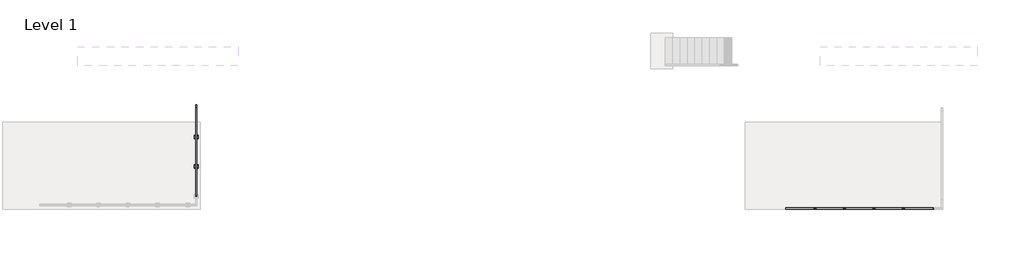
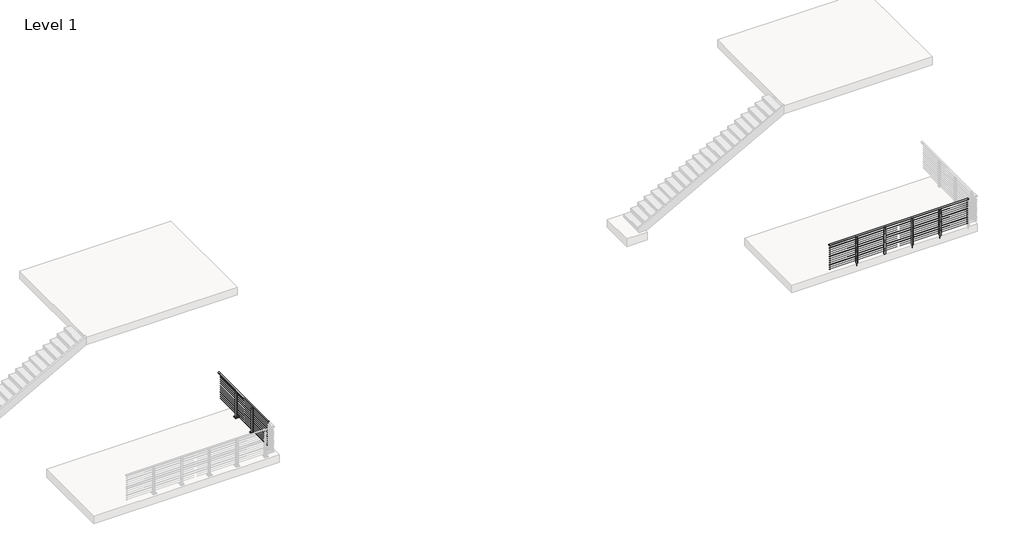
# One storey, part 11 of 26: 2 railings.
"""IFC4 building model written with IfcOpenShell, lengths in millimetres."""

from ifc_helpers import new_model, si_unit, point, frame, frame_2d, origin, origin_with_axes, place, context, project, spatial, polyline, circle_curve, trimmed, segment, composite_curve, outline, extrude, faceted_brep, element, save
from ifc_brep_helpers import plane_surface, cylinder_surface, advanced_brep

model = new_model("IFC4")

# Units and contexts
model_context = context("Model", 3, world=origin())
ifc_project = project(units=[si_unit("LENGTHUNIT", "METRE", prefix="MILLI")], contexts=[model_context])

# Site, building, storey
site = spatial("IfcSite", under=ifc_project)
building = spatial("IfcBuilding", under=site)
storey = spatial("IfcBuildingStorey", under=building, Name="Level 1", Elevation=0.0)

# Railings
placement = place(None, origin())
element("IfcRailing", 1, ObjectType="VIVA-CUBE-Cable-Floor Mount-Straight", at=placement, inside=storey, context=model_context, shape_type="SolidModel", body=[
    advanced_brep(
    [(19578.4855247, -56726.8365969, 1054.1), (19629.2855247, -56726.8365969, 1054.1), (19629.2855247, -53678.8365969, 1054.1), (19578.4855247, -53678.8365969, 1054.1), (19629.2855247, -56752.6334719, 1054.1), (19578.4855247, -56752.6334719, 1054.1), (19629.2855247, -53577.2365969, 1054.1), (19578.4855247, -53577.2365969, 1054.1)],
    [
        (0, 1, circle_curve(frame((19603.8855247, -56726.8365969, 1054.1), z_axis=(0.0, 1.0, 0.0), x_axis=(-1.0, 0.0, 0.0)), 25.4)),
        (1, 2),
        (2, 3, circle_curve(frame((19603.8855247, -53678.8365969, 1054.1), z_axis=(0.0, -1.0, 0.0), x_axis=(-1.0, 0.0, 0.0)), 25.4)),
        (3, 0),
        (1, 0, circle_curve(frame((19603.8855247, -56726.8365969, 1054.1), z_axis=(0.0, 1.0, 0.0), x_axis=(-1.0, 0.0, 0.0)), 25.4)),
        (3, 2, circle_curve(frame((19603.8855247, -53678.8365969, 1054.1), z_axis=(0.0, -1.0, 0.0), x_axis=(-1.0, 0.0, 0.0)), 25.4)),
        (4, 5, circle_curve(frame((19603.8855247, -56752.6334719, 1054.1), z_axis=(0.0, -1.0, 0.0), x_axis=(-1.0, 0.0, 0.0)), 25.4)),
        (5, 4, circle_curve(frame((19603.8855247, -56752.6334719, 1054.1), z_axis=(0.0, -1.0, 0.0), x_axis=(-1.0, 0.0, 0.0)), 25.4)),
        (4, 1),
        (0, 5),
        (6, 7, circle_curve(frame((19603.8855247, -53577.2365969, 1054.1), z_axis=(0.0, 1.0, 0.0), x_axis=(-1.0, 0.0, 0.0)), 25.4)),
        (7, 6, circle_curve(frame((19603.8855247, -53577.2365969, 1054.1), z_axis=(0.0, 1.0, 0.0), x_axis=(-1.0, 0.0, 0.0)), 25.4)),
        (2, 6),
        (7, 3),
    ],
    [
        cylinder_surface(frame((19603.8855247, -56726.8365969, 1054.1), z_axis=(0.0, -1.0, 0.0), x_axis=(-1.0, 0.0, 0.0)), 25.4),
        plane_surface(frame((19603.8855247, -56752.6334719, 1079.5), z_axis=(0.0, -1.0, 0.0), x_axis=(0.0, 0.0, 1.0))),
        cylinder_surface(frame((19603.8855247, -56752.6334719, 1054.1), z_axis=(0.0, -1.0, 0.0), x_axis=(-1.0, 0.0, 0.0)), 25.4),
        plane_surface(frame((19603.8855247, -53577.2365969, 1079.5), z_axis=(0.0, 1.0, 0.0), x_axis=(0.0, 0.0, 1.0))),
        cylinder_surface(frame((19603.8855247, -53678.8365969, 1054.1), z_axis=(0.0, -1.0, 0.0), x_axis=(-1.0, 0.0, 0.0)), 25.4),
    ],
    [
        (0, [[1, 2, 3, 4]]),
        (0, [[5, -4, 6, -2]]),
        (1, [[7, 8]]),
        (2, [[-7, 9, -1, 10]]),
        (2, [[-8, -10, -5, -9]]),
        (3, [[11, 12]]),
        (4, [[-3, 13, -12, 14]]),
        (4, [[-6, -14, -11, -13]]),
    ],
),
    extrude(outline(composite_curve([segment(trimmed(circle_curve(frame_2d((937.4124, 19603.8855247)), 2.3876), [point((937.4124, 19601.4979247))], [point((937.4124, 19606.2731247))], False, "CARTESIAN"), True, "CONTINUOUS"), segment(trimmed(circle_curve(frame_2d((937.4124, 19603.8855247)), 2.3876), [point((937.4124, 19606.2731247))], [point((937.4124, 19601.4979247))], False, "CARTESIAN"), True, "CONTINUOUS")], self_intersect=False)), frame((0.0, -56726.8365969, 0.0), z_axis=(0.0, 1.0, 0.0), x_axis=(0.0, 0.0, 1.0)), (0.0, 0.0, 1.0), 3048.0),
    extrude(outline(composite_curve([segment(trimmed(circle_curve(frame_2d((854.8624, 19603.8855247)), 2.3876), [point((854.8624, 19601.4979247))], [point((854.8624, 19606.2731247))], False, "CARTESIAN"), True, "CONTINUOUS"), segment(trimmed(circle_curve(frame_2d((854.8624, 19603.8855247)), 2.3876), [point((854.8624, 19606.2731247))], [point((854.8624, 19601.4979247))], False, "CARTESIAN"), True, "CONTINUOUS")], self_intersect=False)), frame((0.0, -56726.8365969, 0.0), z_axis=(0.0, 1.0, 0.0), x_axis=(0.0, 0.0, 1.0)), (0.0, 0.0, 1.0), 3048.0),
    extrude(outline(composite_curve([segment(trimmed(circle_curve(frame_2d((772.3124, 19603.8855247)), 2.3876), [point((772.3124, 19601.4979247))], [point((772.3124, 19606.2731247))], False, "CARTESIAN"), True, "CONTINUOUS"), segment(trimmed(circle_curve(frame_2d((772.3124, 19603.8855247)), 2.3876), [point((772.3124, 19606.2731247))], [point((772.3124, 19601.4979247))], False, "CARTESIAN"), True, "CONTINUOUS")], self_intersect=False)), frame((0.0, -56726.8365969, 0.0), z_axis=(0.0, 1.0, 0.0), x_axis=(0.0, 0.0, 1.0)), (0.0, 0.0, 1.0), 3048.0),
    extrude(outline(composite_curve([segment(trimmed(circle_curve(frame_2d((689.7624, 19603.8855247)), 2.3876), [point((689.7624, 19601.4979247))], [point((689.7624, 19606.2731247))], False, "CARTESIAN"), True, "CONTINUOUS"), segment(trimmed(circle_curve(frame_2d((689.7624, 19603.8855247)), 2.3876), [point((689.7624, 19606.2731247))], [point((689.7624, 19601.4979247))], False, "CARTESIAN"), True, "CONTINUOUS")], self_intersect=False)), frame((0.0, -56726.8365969, 0.0), z_axis=(0.0, 1.0, 0.0), x_axis=(0.0, 0.0, 1.0)), (0.0, 0.0, 1.0), 3048.0),
    extrude(outline(composite_curve([segment(trimmed(circle_curve(frame_2d((607.2124, 19603.8855247)), 2.3876), [point((607.2124, 19601.4979247))], [point((607.2124, 19606.2731247))], False, "CARTESIAN"), True, "CONTINUOUS"), segment(trimmed(circle_curve(frame_2d((607.2124, 19603.8855247)), 2.3876), [point((607.2124, 19606.2731247))], [point((607.2124, 19601.4979247))], False, "CARTESIAN"), True, "CONTINUOUS")], self_intersect=False)), frame((0.0, -56726.8365969, 0.0), z_axis=(0.0, 1.0, 0.0), x_axis=(0.0, 0.0, 1.0)), (0.0, 0.0, 1.0), 3048.0),
    extrude(outline(composite_curve([segment(trimmed(circle_curve(frame_2d((524.6624, 19603.8855247)), 2.3876), [point((524.6624, 19601.4979247))], [point((524.6624, 19606.2731247))], False, "CARTESIAN"), True, "CONTINUOUS"), segment(trimmed(circle_curve(frame_2d((524.6624, 19603.8855247)), 2.3876), [point((524.6624, 19606.2731247))], [point((524.6624, 19601.4979247))], False, "CARTESIAN"), True, "CONTINUOUS")], self_intersect=False)), frame((0.0, -56726.8365969, 0.0), z_axis=(0.0, 1.0, 0.0), x_axis=(0.0, 0.0, 1.0)), (0.0, 0.0, 1.0), 3048.0),
    extrude(outline(composite_curve([segment(trimmed(circle_curve(frame_2d((442.1124, 19603.8855247)), 2.3876), [point((442.1124, 19601.4979247))], [point((442.1124, 19606.2731247))], False, "CARTESIAN"), True, "CONTINUOUS"), segment(trimmed(circle_curve(frame_2d((442.1124, 19603.8855247)), 2.3876), [point((442.1124, 19606.2731247))], [point((442.1124, 19601.4979247))], False, "CARTESIAN"), True, "CONTINUOUS")], self_intersect=False)), frame((0.0, -56726.8365969, 0.0), z_axis=(0.0, 1.0, 0.0), x_axis=(0.0, 0.0, 1.0)), (0.0, 0.0, 1.0), 3048.0),
    extrude(outline(composite_curve([segment(trimmed(circle_curve(frame_2d((359.5624, 19603.8855247)), 2.3876), [point((359.5624, 19601.4979247))], [point((359.5624, 19606.2731247))], False, "CARTESIAN"), True, "CONTINUOUS"), segment(trimmed(circle_curve(frame_2d((359.5624, 19603.8855247)), 2.3876), [point((359.5624, 19606.2731247))], [point((359.5624, 19601.4979247))], False, "CARTESIAN"), True, "CONTINUOUS")], self_intersect=False)), frame((0.0, -56726.8365969, 0.0), z_axis=(0.0, 1.0, 0.0), x_axis=(0.0, 0.0, 1.0)), (0.0, 0.0, 1.0), 3048.0),
    extrude(outline(composite_curve([segment(trimmed(circle_curve(frame_2d((277.0124, 19603.8855247)), 2.3876), [point((277.0124, 19601.4979247))], [point((277.0124, 19606.2731247))], False, "CARTESIAN"), True, "CONTINUOUS"), segment(trimmed(circle_curve(frame_2d((277.0124, 19603.8855247)), 2.3876), [point((277.0124, 19606.2731247))], [point((277.0124, 19601.4979247))], False, "CARTESIAN"), True, "CONTINUOUS")], self_intersect=False)), frame((0.0, -56726.8365969, 0.0), z_axis=(0.0, 1.0, 0.0), x_axis=(0.0, 0.0, 1.0)), (0.0, 0.0, 1.0), 3048.0),
    extrude(outline(composite_curve([segment(trimmed(circle_curve(frame_2d((194.4624, 19603.8855247)), 2.3876), [point((194.4624, 19601.4979247))], [point((194.4624, 19606.2731247))], False, "CARTESIAN"), True, "CONTINUOUS"), segment(trimmed(circle_curve(frame_2d((194.4624, 19603.8855247)), 2.3876), [point((194.4624, 19606.2731247))], [point((194.4624, 19601.4979247))], False, "CARTESIAN"), True, "CONTINUOUS")], self_intersect=False)), frame((0.0, -56726.8365969, 0.0), z_axis=(0.0, 1.0, 0.0), x_axis=(0.0, 0.0, 1.0)), (0.0, 0.0, 1.0), 3048.0),
    extrude(outline(composite_curve([segment(trimmed(circle_curve(frame_2d((111.9124, 19603.8855247)), 2.3876), [point((111.9124, 19601.4979247))], [point((111.9124, 19606.2731247))], False, "CARTESIAN"), True, "CONTINUOUS"), segment(trimmed(circle_curve(frame_2d((111.9124, 19603.8855247)), 2.3876), [point((111.9124, 19606.2731247))], [point((111.9124, 19601.4979247))], False, "CARTESIAN"), True, "CONTINUOUS")], self_intersect=False)), frame((0.0, -56726.8365969, 0.0), z_axis=(0.0, 1.0, 0.0), x_axis=(0.0, 0.0, 1.0)), (0.0, 0.0, 1.0), 3048.0),
    extrude(outline(polyline([(19540.3855247, -54630.9397219), (19667.3855247, -54630.9397219), (19667.3855247, -54757.9397219), (19540.3855247, -54757.9397219), (19540.3855247, -54630.9397219)]), holes=[composite_curve([segment(trimmed(circle_curve(frame_2d((19648.3355247, -54738.8897219)), 4.7625), [point((19653.0980247, -54738.8897219))], [point((19643.5730247, -54738.8897219))], True, "CARTESIAN"), True, "CONTINUOUS"), segment(trimmed(circle_curve(frame_2d((19648.3355247, -54738.8897219)), 4.7625), [point((19643.5730247, -54738.8897219))], [point((19653.0980247, -54738.8897219))], True, "CARTESIAN"), True, "CONTINUOUS")], self_intersect=False), composite_curve([segment(trimmed(circle_curve(frame_2d((19559.4355247, -54738.8897219)), 4.7625), [point((19564.1980247, -54738.8897219))], [point((19554.6730247, -54738.8897219))], True, "CARTESIAN"), True, "CONTINUOUS"), segment(trimmed(circle_curve(frame_2d((19559.4355247, -54738.8897219)), 4.7625), [point((19554.6730247, -54738.8897219))], [point((19564.1980247, -54738.8897219))], True, "CARTESIAN"), True, "CONTINUOUS")], self_intersect=False), composite_curve([segment(trimmed(circle_curve(frame_2d((19648.3355247, -54649.9897219)), 4.7625), [point((19653.0980247, -54649.9897219))], [point((19643.5730247, -54649.9897219))], True, "CARTESIAN"), True, "CONTINUOUS"), segment(trimmed(circle_curve(frame_2d((19648.3355247, -54649.9897219)), 4.7625), [point((19643.5730247, -54649.9897219))], [point((19653.0980247, -54649.9897219))], True, "CARTESIAN"), True, "CONTINUOUS")], self_intersect=False), composite_curve([segment(trimmed(circle_curve(frame_2d((19559.4355247, -54649.9897219)), 4.7625), [point((19564.1980247, -54649.9897219))], [point((19554.6730247, -54649.9897219))], True, "CARTESIAN"), True, "CONTINUOUS"), segment(trimmed(circle_curve(frame_2d((19559.4355247, -54649.9897219)), 4.7625), [point((19554.6730247, -54649.9897219))], [point((19564.1980247, -54649.9897219))], True, "CARTESIAN"), True, "CONTINUOUS")], self_intersect=False)]), origin_with_axes(), (0.0, 0.0, 1.0), 25.4),
    faceted_brep([(19591.1855247, -54681.7397219, 997.2902749), (19591.1855247, -54707.1397219, 997.2902749), (19599.9167747, -54707.1397219, 997.2902749), (19599.9167747, -54681.7397219, 997.2902749), (19616.5855247, -54707.1397219, 997.2902749), (19616.5855247, -54681.7397219, 997.2902749), (19607.8542747, -54681.7397219, 997.2902749), (19607.8542747, -54707.1397219, 997.2902749), (19578.4855247, -54669.0397219, 941.1347854), (19629.2855247, -54669.0397219, 941.1347854), (19578.4855247, -54719.8397219, 941.1347854), (19629.2855247, -54719.8397219, 941.1347854), (19578.4855247, -54669.0397219, 25.4), (19629.2855247, -54669.0397219, 25.4), (19629.2855247, -54719.8397219, 25.4), (19578.4855247, -54719.8397219, 25.4), (19607.8542747, -54707.1397219, 1009.3306013), (19607.8542747, -54681.7397219, 1009.3306013), (19599.9167747, -54681.7397219, 1009.3306013), (19599.9167747, -54707.1397219, 1009.3306013)], [[[0, 1, 2, 3]], [[4, 5, 6, 7]], [[8, 0, 3, 6, 5, 9]], [[1, 0, 8, 10]], [[1, 10, 11, 4, 7, 2]], [[5, 4, 11, 9]], [[12, 13, 14, 15]], [[12, 15, 10, 8]], [[15, 14, 11, 10]], [[14, 13, 9, 11]], [[13, 12, 8, 9]], [[16, 17, 18, 19]], [[17, 16, 7, 6]], [[18, 17, 6, 3]], [[19, 18, 3, 2]], [[16, 19, 2, 7]]]),
    extrude(outline(composite_curve([segment(trimmed(circle_curve(frame_2d((1054.1433184, 19603.7887963)), 25.4345159), [point((1032.0284941, 19616.3525992))], [point((1031.9335733, 19591.3935626))], True, "CARTESIAN"), True, "CONTINUOUS"), segment(trimmed(circle_curve(frame_2d((1029.4310885, 19590.1489094)), 2.7949225), [point((1031.9335733, 19591.3935626))], [point((1027.0585031, 19588.6716044))], False, "CARTESIAN"), True, "CONTINUOUS"), segment(trimmed(circle_curve(frame_2d((1054.905945, 19603.9222594)), 31.75), [point((1027.0585031, 19588.6716044))], [point((1027.6392616, 19620.1884966))], False, "CARTESIAN"), True, "CONTINUOUS"), segment(trimmed(circle_curve(frame_2d((1029.5101807, 19617.9001569)), 2.9558141), [point((1027.6392616, 19620.1884966))], [point((1032.0284941, 19616.3525992))], False, "CARTESIAN"), True, "CONTINUOUS")], self_intersect=False)), frame((0.0, -54739.6771219, 0.0), z_axis=(0.0, 1.0, 0.0), x_axis=(0.0, 0.0, 1.0)), (0.0, 0.0, 1.0), 90.4748),
    extrude(outline(composite_curve([segment(trimmed(circle_curve(frame_2d((-54667.371807, 1009.0006022)), 14.3679149), [point((-54667.371807, 1023.3685171))], [point((-54681.7397219, 1009.0006022))], True, "CARTESIAN"), True, "CONTINUOUS"), segment(trimmed(circle_curve(frame_2d((-54694.4397219, 1009.0006022)), 12.7), [point((-54681.7397219, 1009.0006022))], [point((-54707.1397219, 1009.0006022))], False, "CARTESIAN"), True, "CONTINUOUS"), segment(trimmed(circle_curve(frame_2d((-54721.5076367, 1009.0006022)), 14.3679149), [point((-54707.1397219, 1009.0006022))], [point((-54721.5076367, 1023.3685171))], True, "CARTESIAN"), True, "CONTINUOUS"), segment(polyline([(-54721.5076367, 1023.3685171), (-54667.371807, 1023.3685171)]), True, "CONTINUOUS")], self_intersect=False)), frame((19601.3455247, 0.0, 0.0), z_axis=(1.0, 0.0, 0.0), x_axis=(0.0, 1.0, 0.0)), (0.0, 0.0, 1.0), 5.08),
    extrude(outline(polyline([(19540.3855247, -55646.9397219), (19667.3855247, -55646.9397219), (19667.3855247, -55773.9397219), (19540.3855247, -55773.9397219), (19540.3855247, -55646.9397219)]), holes=[composite_curve([segment(trimmed(circle_curve(frame_2d((19648.3355247, -55754.8897219)), 4.7625), [point((19653.0980247, -55754.8897219))], [point((19643.5730247, -55754.8897219))], True, "CARTESIAN"), True, "CONTINUOUS"), segment(trimmed(circle_curve(frame_2d((19648.3355247, -55754.8897219)), 4.7625), [point((19643.5730247, -55754.8897219))], [point((19653.0980247, -55754.8897219))], True, "CARTESIAN"), True, "CONTINUOUS")], self_intersect=False), composite_curve([segment(trimmed(circle_curve(frame_2d((19559.4355247, -55754.8897219)), 4.7625), [point((19564.1980247, -55754.8897219))], [point((19554.6730247, -55754.8897219))], True, "CARTESIAN"), True, "CONTINUOUS"), segment(trimmed(circle_curve(frame_2d((19559.4355247, -55754.8897219)), 4.7625), [point((19554.6730247, -55754.8897219))], [point((19564.1980247, -55754.8897219))], True, "CARTESIAN"), True, "CONTINUOUS")], self_intersect=False), composite_curve([segment(trimmed(circle_curve(frame_2d((19648.3355247, -55665.9897219)), 4.7625), [point((19653.0980247, -55665.9897219))], [point((19643.5730247, -55665.9897219))], True, "CARTESIAN"), True, "CONTINUOUS"), segment(trimmed(circle_curve(frame_2d((19648.3355247, -55665.9897219)), 4.7625), [point((19643.5730247, -55665.9897219))], [point((19653.0980247, -55665.9897219))], True, "CARTESIAN"), True, "CONTINUOUS")], self_intersect=False), composite_curve([segment(trimmed(circle_curve(frame_2d((19559.4355247, -55665.9897219)), 4.7625), [point((19564.1980247, -55665.9897219))], [point((19554.6730247, -55665.9897219))], True, "CARTESIAN"), True, "CONTINUOUS"), segment(trimmed(circle_curve(frame_2d((19559.4355247, -55665.9897219)), 4.7625), [point((19554.6730247, -55665.9897219))], [point((19564.1980247, -55665.9897219))], True, "CARTESIAN"), True, "CONTINUOUS")], self_intersect=False)]), origin_with_axes(), (0.0, 0.0, 1.0), 25.4),
    faceted_brep([(19591.1855247, -55697.7397219, 997.2902749), (19591.1855247, -55723.1397219, 997.2902749), (19599.9167747, -55723.1397219, 997.2902749), (19599.9167747, -55697.7397219, 997.2902749), (19616.5855247, -55723.1397219, 997.2902749), (19616.5855247, -55697.7397219, 997.2902749), (19607.8542747, -55697.7397219, 997.2902749), (19607.8542747, -55723.1397219, 997.2902749), (19578.4855247, -55685.0397219, 941.1347854), (19629.2855247, -55685.0397219, 941.1347854), (19578.4855247, -55735.8397219, 941.1347854), (19629.2855247, -55735.8397219, 941.1347854), (19578.4855247, -55685.0397219, 25.4), (19629.2855247, -55685.0397219, 25.4), (19629.2855247, -55735.8397219, 25.4), (19578.4855247, -55735.8397219, 25.4), (19607.8542747, -55723.1397219, 1009.3306013), (19607.8542747, -55697.7397219, 1009.3306013), (19599.9167747, -55697.7397219, 1009.3306013), (19599.9167747, -55723.1397219, 1009.3306013)], [[[0, 1, 2, 3]], [[4, 5, 6, 7]], [[8, 0, 3, 6, 5, 9]], [[1, 0, 8, 10]], [[1, 10, 11, 4, 7, 2]], [[5, 4, 11, 9]], [[12, 13, 14, 15]], [[12, 15, 10, 8]], [[15, 14, 11, 10]], [[14, 13, 9, 11]], [[13, 12, 8, 9]], [[16, 17, 18, 19]], [[17, 16, 7, 6]], [[18, 17, 6, 3]], [[19, 18, 3, 2]], [[16, 19, 2, 7]]]),
    extrude(outline(composite_curve([segment(trimmed(circle_curve(frame_2d((1054.1433184, 19603.7887963)), 25.4345159), [point((1032.0284941, 19616.3525992))], [point((1031.9335733, 19591.3935626))], True, "CARTESIAN"), True, "CONTINUOUS"), segment(trimmed(circle_curve(frame_2d((1029.4310885, 19590.1489094)), 2.7949225), [point((1031.9335733, 19591.3935626))], [point((1027.0585031, 19588.6716044))], False, "CARTESIAN"), True, "CONTINUOUS"), segment(trimmed(circle_curve(frame_2d((1054.905945, 19603.9222594)), 31.75), [point((1027.0585031, 19588.6716044))], [point((1027.6392616, 19620.1884966))], False, "CARTESIAN"), True, "CONTINUOUS"), segment(trimmed(circle_curve(frame_2d((1029.5101807, 19617.9001569)), 2.9558141), [point((1027.6392616, 19620.1884966))], [point((1032.0284941, 19616.3525992))], False, "CARTESIAN"), True, "CONTINUOUS")], self_intersect=False)), frame((0.0, -55755.6771219, 0.0), z_axis=(0.0, 1.0, 0.0), x_axis=(0.0, 0.0, 1.0)), (0.0, 0.0, 1.0), 90.4748),
    extrude(outline(composite_curve([segment(trimmed(circle_curve(frame_2d((-55683.371807, 1009.0006022)), 14.3679149), [point((-55683.371807, 1023.3685171))], [point((-55697.7397219, 1009.0006022))], True, "CARTESIAN"), True, "CONTINUOUS"), segment(trimmed(circle_curve(frame_2d((-55710.4397219, 1009.0006022)), 12.7), [point((-55697.7397219, 1009.0006022))], [point((-55723.1397219, 1009.0006022))], False, "CARTESIAN"), True, "CONTINUOUS"), segment(trimmed(circle_curve(frame_2d((-55737.5076367, 1009.0006022)), 14.3679149), [point((-55723.1397219, 1009.0006022))], [point((-55737.5076367, 1023.3685171))], True, "CARTESIAN"), True, "CONTINUOUS"), segment(polyline([(-55737.5076367, 1023.3685171), (-55683.371807, 1023.3685171)]), True, "CONTINUOUS")], self_intersect=False)), frame((19601.3455247, 0.0, 0.0), z_axis=(1.0, 0.0, 0.0), x_axis=(0.0, 1.0, 0.0)), (0.0, 0.0, 1.0), 5.08),
])
element("IfcRailing", 2, ObjectType="VIVA-CUBE-Cable-Weld Mount-Straight", at=placement, inside=storey, context=model_context, shape_type="SolidModel", body=[
    advanced_brep(
    [(39923.8855247, -57184.4334719, 1054.1), (39923.8855247, -57133.6334719, 1054.1), (45003.8855247, -57184.4334719, 1054.1), (45003.8855247, -57133.6334719, 1054.1), (45028.8886497, -57184.4334719, 1054.1), (45028.8886497, -57133.6334719, 1054.1)],
    [
        (0, 1, circle_curve(frame((39923.8855247, -57159.0334719, 1054.1), z_axis=(-1.0, 0.0, 0.0), x_axis=(0.0, 1.0, 0.0)), 25.4)),
        (1, 0, circle_curve(frame((39923.8855247, -57159.0334719, 1054.1), z_axis=(-1.0, 0.0, 0.0), x_axis=(0.0, 1.0, 0.0)), 25.4)),
        (0, 2),
        (2, 3, circle_curve(frame((45003.8855247, -57159.0334719, 1054.1), z_axis=(-1.0, 0.0, 0.0), x_axis=(0.0, 1.0, 0.0)), 25.4)),
        (3, 1),
        (3, 2, circle_curve(frame((45003.8855247, -57159.0334719, 1054.1), z_axis=(-1.0, 0.0, 0.0), x_axis=(0.0, 1.0, 0.0)), 25.4)),
        (4, 5, circle_curve(frame((45028.8886497, -57159.0334719, 1054.1), z_axis=(1.0, 0.0, 0.0), x_axis=(0.0, 1.0, 0.0)), 25.4)),
        (5, 4, circle_curve(frame((45028.8886497, -57159.0334719, 1054.1), z_axis=(1.0, 0.0, 0.0), x_axis=(0.0, 1.0, 0.0)), 25.4)),
        (2, 4),
        (5, 3),
    ],
    [
        plane_surface(frame((39923.8855247, -57159.0334719, 1079.5), z_axis=(-1.0, 0.0, 0.0), x_axis=(0.0, 1.0, 0.0))),
        cylinder_surface(frame((39923.8855247, -57159.0334719, 1054.1), z_axis=(-1.0, 0.0, 0.0), x_axis=(0.0, 1.0, 0.0)), 25.4),
        plane_surface(frame((45028.8886497, -57159.0334719, 1079.5), z_axis=(1.0, 0.0, 0.0), x_axis=(0.0, 1.0, 0.0))),
        cylinder_surface(frame((45003.8855247, -57159.0334719, 1054.1), z_axis=(-1.0, 0.0, 0.0), x_axis=(0.0, 1.0, 0.0)), 25.4),
    ],
    [
        (0, [[1, 2]]),
        (1, [[-1, 3, 4, 5]]),
        (1, [[-2, -5, 6, -3]]),
        (2, [[7, 8]]),
        (3, [[-4, 9, -8, 10]]),
        (3, [[-6, -10, -7, -9]]),
    ],
),
    extrude(outline(composite_curve([segment(trimmed(circle_curve(frame_2d((-57159.0334719, 937.4124)), 2.3876), [point((-57156.6458719, 937.4124))], [point((-57161.4210719, 937.4124))], False, "CARTESIAN"), True, "CONTINUOUS"), segment(trimmed(circle_curve(frame_2d((-57159.0334719, 937.4124)), 2.3876), [point((-57161.4210719, 937.4124))], [point((-57156.6458719, 937.4124))], False, "CARTESIAN"), True, "CONTINUOUS")], self_intersect=False)), frame((39923.8855247, 0.0, 0.0), z_axis=(1.0, 0.0, 0.0), x_axis=(0.0, 1.0, 0.0)), (0.0, 0.0, 1.0), 5080.0),
    extrude(outline(composite_curve([segment(trimmed(circle_curve(frame_2d((-57159.0334719, 854.8624)), 2.3876), [point((-57156.6458719, 854.8624))], [point((-57161.4210719, 854.8624))], False, "CARTESIAN"), True, "CONTINUOUS"), segment(trimmed(circle_curve(frame_2d((-57159.0334719, 854.8624)), 2.3876), [point((-57161.4210719, 854.8624))], [point((-57156.6458719, 854.8624))], False, "CARTESIAN"), True, "CONTINUOUS")], self_intersect=False)), frame((39923.8855247, 0.0, 0.0), z_axis=(1.0, 0.0, 0.0), x_axis=(0.0, 1.0, 0.0)), (0.0, 0.0, 1.0), 5080.0),
    extrude(outline(composite_curve([segment(trimmed(circle_curve(frame_2d((-57159.0334719, 772.3124)), 2.3876), [point((-57156.6458719, 772.3124))], [point((-57161.4210719, 772.3124))], False, "CARTESIAN"), True, "CONTINUOUS"), segment(trimmed(circle_curve(frame_2d((-57159.0334719, 772.3124)), 2.3876), [point((-57161.4210719, 772.3124))], [point((-57156.6458719, 772.3124))], False, "CARTESIAN"), True, "CONTINUOUS")], self_intersect=False)), frame((39923.8855247, 0.0, 0.0), z_axis=(1.0, 0.0, 0.0), x_axis=(0.0, 1.0, 0.0)), (0.0, 0.0, 1.0), 5080.0),
    extrude(outline(composite_curve([segment(trimmed(circle_curve(frame_2d((-57159.0334719, 689.7624)), 2.3876), [point((-57156.6458719, 689.7624))], [point((-57161.4210719, 689.7624))], False, "CARTESIAN"), True, "CONTINUOUS"), segment(trimmed(circle_curve(frame_2d((-57159.0334719, 689.7624)), 2.3876), [point((-57161.4210719, 689.7624))], [point((-57156.6458719, 689.7624))], False, "CARTESIAN"), True, "CONTINUOUS")], self_intersect=False)), frame((39923.8855247, 0.0, 0.0), z_axis=(1.0, 0.0, 0.0), x_axis=(0.0, 1.0, 0.0)), (0.0, 0.0, 1.0), 5080.0),
    extrude(outline(composite_curve([segment(trimmed(circle_curve(frame_2d((-57159.0334719, 607.2124)), 2.3876), [point((-57156.6458719, 607.2124))], [point((-57161.4210719, 607.2124))], False, "CARTESIAN"), True, "CONTINUOUS"), segment(trimmed(circle_curve(frame_2d((-57159.0334719, 607.2124)), 2.3876), [point((-57161.4210719, 607.2124))], [point((-57156.6458719, 607.2124))], False, "CARTESIAN"), True, "CONTINUOUS")], self_intersect=False)), frame((39923.8855247, 0.0, 0.0), z_axis=(1.0, 0.0, 0.0), x_axis=(0.0, 1.0, 0.0)), (0.0, 0.0, 1.0), 5080.0),
    extrude(outline(composite_curve([segment(trimmed(circle_curve(frame_2d((-57159.0334719, 524.6624)), 2.3876), [point((-57156.6458719, 524.6624))], [point((-57161.4210719, 524.6624))], False, "CARTESIAN"), True, "CONTINUOUS"), segment(trimmed(circle_curve(frame_2d((-57159.0334719, 524.6624)), 2.3876), [point((-57161.4210719, 524.6624))], [point((-57156.6458719, 524.6624))], False, "CARTESIAN"), True, "CONTINUOUS")], self_intersect=False)), frame((39923.8855247, 0.0, 0.0), z_axis=(1.0, 0.0, 0.0), x_axis=(0.0, 1.0, 0.0)), (0.0, 0.0, 1.0), 5080.0),
    extrude(outline(composite_curve([segment(trimmed(circle_curve(frame_2d((-57159.0334719, 442.1124)), 2.3876), [point((-57156.6458719, 442.1124))], [point((-57161.4210719, 442.1124))], False, "CARTESIAN"), True, "CONTINUOUS"), segment(trimmed(circle_curve(frame_2d((-57159.0334719, 442.1124)), 2.3876), [point((-57161.4210719, 442.1124))], [point((-57156.6458719, 442.1124))], False, "CARTESIAN"), True, "CONTINUOUS")], self_intersect=False)), frame((39923.8855247, 0.0, 0.0), z_axis=(1.0, 0.0, 0.0), x_axis=(0.0, 1.0, 0.0)), (0.0, 0.0, 1.0), 5080.0),
    extrude(outline(composite_curve([segment(trimmed(circle_curve(frame_2d((-57159.0334719, 359.5624)), 2.3876), [point((-57156.6458719, 359.5624))], [point((-57161.4210719, 359.5624))], False, "CARTESIAN"), True, "CONTINUOUS"), segment(trimmed(circle_curve(frame_2d((-57159.0334719, 359.5624)), 2.3876), [point((-57161.4210719, 359.5624))], [point((-57156.6458719, 359.5624))], False, "CARTESIAN"), True, "CONTINUOUS")], self_intersect=False)), frame((39923.8855247, 0.0, 0.0), z_axis=(1.0, 0.0, 0.0), x_axis=(0.0, 1.0, 0.0)), (0.0, 0.0, 1.0), 5080.0),
    extrude(outline(composite_curve([segment(trimmed(circle_curve(frame_2d((-57159.0334719, 277.0124)), 2.3876), [point((-57156.6458719, 277.0124))], [point((-57161.4210719, 277.0124))], False, "CARTESIAN"), True, "CONTINUOUS"), segment(trimmed(circle_curve(frame_2d((-57159.0334719, 277.0124)), 2.3876), [point((-57161.4210719, 277.0124))], [point((-57156.6458719, 277.0124))], False, "CARTESIAN"), True, "CONTINUOUS")], self_intersect=False)), frame((39923.8855247, 0.0, 0.0), z_axis=(1.0, 0.0, 0.0), x_axis=(0.0, 1.0, 0.0)), (0.0, 0.0, 1.0), 5080.0),
    extrude(outline(composite_curve([segment(trimmed(circle_curve(frame_2d((-57159.0334719, 194.4624)), 2.3876), [point((-57156.6458719, 194.4624))], [point((-57161.4210719, 194.4624))], False, "CARTESIAN"), True, "CONTINUOUS"), segment(trimmed(circle_curve(frame_2d((-57159.0334719, 194.4624)), 2.3876), [point((-57161.4210719, 194.4624))], [point((-57156.6458719, 194.4624))], False, "CARTESIAN"), True, "CONTINUOUS")], self_intersect=False)), frame((39923.8855247, 0.0, 0.0), z_axis=(1.0, 0.0, 0.0), x_axis=(0.0, 1.0, 0.0)), (0.0, 0.0, 1.0), 5080.0),
    extrude(outline(composite_curve([segment(trimmed(circle_curve(frame_2d((-57159.0334719, 111.9124)), 2.3876), [point((-57156.6458719, 111.9124))], [point((-57161.4210719, 111.9124))], False, "CARTESIAN"), True, "CONTINUOUS"), segment(trimmed(circle_curve(frame_2d((-57159.0334719, 111.9124)), 2.3876), [point((-57161.4210719, 111.9124))], [point((-57156.6458719, 111.9124))], False, "CARTESIAN"), True, "CONTINUOUS")], self_intersect=False)), frame((39923.8855247, 0.0, 0.0), z_axis=(1.0, 0.0, 0.0), x_axis=(0.0, 1.0, 0.0)), (0.0, 0.0, 1.0), 5080.0),
    faceted_brep([(44000.9823997, -57146.3334719, 997.2902749), (43975.5823997, -57146.3334719, 997.2902749), (43975.5823997, -57155.0647219, 997.2902749), (44000.9823997, -57155.0647219, 997.2902749), (43975.5823997, -57171.7334719, 997.2902749), (44000.9823997, -57171.7334719, 997.2902749), (44000.9823997, -57163.0022219, 997.2902749), (43975.5823997, -57163.0022219, 997.2902749), (44013.6823997, -57133.6334719, 941.1347854), (44013.6823997, -57184.4334719, 941.1347854), (43962.8823997, -57133.6334719, 941.1347854), (43962.8823997, -57184.4334719, 941.1347854), (44013.6823997, -57133.6334719, -88.9), (44013.6823997, -57184.4334719, -88.9), (43962.8823997, -57184.4334719, -88.9), (43962.8823997, -57133.6334719, -88.9), (43975.5823997, -57163.0022219, 1009.3306013), (44000.9823997, -57163.0022219, 1009.3306013), (44000.9823997, -57155.0647219, 1009.3306013), (43975.5823997, -57155.0647219, 1009.3306013)], [[[0, 1, 2, 3]], [[4, 5, 6, 7]], [[8, 0, 3, 6, 5, 9]], [[1, 0, 8, 10]], [[1, 10, 11, 4, 7, 2]], [[5, 4, 11, 9]], [[12, 13, 14, 15]], [[12, 15, 10, 8]], [[15, 14, 11, 10]], [[14, 13, 9, 11]], [[13, 12, 8, 9]], [[16, 17, 18, 19]], [[17, 16, 7, 6]], [[18, 17, 6, 3]], [[19, 18, 3, 2]], [[16, 19, 2, 7]]]),
    extrude(outline(composite_curve([segment(trimmed(circle_curve(frame_2d((-57158.9367435, 1054.1433184)), 25.4345159), [point((-57171.5005464, 1032.0284941))], [point((-57146.5415097, 1031.9335733))], True, "CARTESIAN"), True, "CONTINUOUS"), segment(trimmed(circle_curve(frame_2d((-57145.2968566, 1029.4310885)), 2.7949225), [point((-57146.5415097, 1031.9335733))], [point((-57143.8195515, 1027.0585031))], False, "CARTESIAN"), True, "CONTINUOUS"), segment(trimmed(circle_curve(frame_2d((-57159.0702066, 1054.905945)), 31.75), [point((-57143.8195515, 1027.0585031))], [point((-57175.3364438, 1027.6392616))], False, "CARTESIAN"), True, "CONTINUOUS"), segment(trimmed(circle_curve(frame_2d((-57173.048104, 1029.5101807)), 2.9558141), [point((-57175.3364438, 1027.6392616))], [point((-57171.5005464, 1032.0284941))], False, "CARTESIAN"), True, "CONTINUOUS")], self_intersect=False)), frame((43943.0449997, 0.0, 0.0), z_axis=(1.0, 0.0, 0.0), x_axis=(0.0, 1.0, 0.0)), (0.0, 0.0, 1.0), 90.4748),
    extrude(outline(composite_curve([segment(polyline([(1023.3685171, 44015.3503146), (1023.3685171, 43961.2144848)]), True, "CONTINUOUS"), segment(trimmed(circle_curve(frame_2d((1009.0006022, 43961.2144848)), 14.3679149), [point((1023.3685171, 43961.2144848))], [point((1009.0006022, 43975.5823997))], True, "CARTESIAN"), True, "CONTINUOUS"), segment(trimmed(circle_curve(frame_2d((1009.0006022, 43988.2823997)), 12.7), [point((1009.0006022, 43975.5823997))], [point((1009.0006022, 44000.9823997))], False, "CARTESIAN"), True, "CONTINUOUS"), segment(trimmed(circle_curve(frame_2d((1009.0006022, 44015.3503146)), 14.3679149), [point((1009.0006022, 44000.9823997))], [point((1023.3685171, 44015.3503146))], True, "CARTESIAN"), True, "CONTINUOUS")], self_intersect=False)), frame((0.0, -57161.5734719, 0.0), z_axis=(0.0, 1.0, 0.0), x_axis=(0.0, 0.0, 1.0)), (0.0, 0.0, 1.0), 5.08),
    faceted_brep([(42984.9823997, -57146.3334719, 997.2902749), (42959.5823997, -57146.3334719, 997.2902749), (42959.5823997, -57155.0647219, 997.2902749), (42984.9823997, -57155.0647219, 997.2902749), (42959.5823997, -57171.7334719, 997.2902749), (42984.9823997, -57171.7334719, 997.2902749), (42984.9823997, -57163.0022219, 997.2902749), (42959.5823997, -57163.0022219, 997.2902749), (42997.6823997, -57133.6334719, 941.1347854), (42997.6823997, -57184.4334719, 941.1347854), (42946.8823997, -57133.6334719, 941.1347854), (42946.8823997, -57184.4334719, 941.1347854), (42997.6823997, -57133.6334719, -88.9), (42997.6823997, -57184.4334719, -88.9), (42946.8823997, -57184.4334719, -88.9), (42946.8823997, -57133.6334719, -88.9), (42959.5823997, -57163.0022219, 1009.3306013), (42984.9823997, -57163.0022219, 1009.3306013), (42984.9823997, -57155.0647219, 1009.3306013), (42959.5823997, -57155.0647219, 1009.3306013)], [[[0, 1, 2, 3]], [[4, 5, 6, 7]], [[8, 0, 3, 6, 5, 9]], [[1, 0, 8, 10]], [[1, 10, 11, 4, 7, 2]], [[5, 4, 11, 9]], [[12, 13, 14, 15]], [[12, 15, 10, 8]], [[15, 14, 11, 10]], [[14, 13, 9, 11]], [[13, 12, 8, 9]], [[16, 17, 18, 19]], [[17, 16, 7, 6]], [[18, 17, 6, 3]], [[19, 18, 3, 2]], [[16, 19, 2, 7]]]),
    extrude(outline(composite_curve([segment(trimmed(circle_curve(frame_2d((-57158.9367435, 1054.1433184)), 25.4345159), [point((-57171.5005464, 1032.0284941))], [point((-57146.5415097, 1031.9335733))], True, "CARTESIAN"), True, "CONTINUOUS"), segment(trimmed(circle_curve(frame_2d((-57145.2968566, 1029.4310885)), 2.7949225), [point((-57146.5415097, 1031.9335733))], [point((-57143.8195515, 1027.0585031))], False, "CARTESIAN"), True, "CONTINUOUS"), segment(trimmed(circle_curve(frame_2d((-57159.0702066, 1054.905945)), 31.75), [point((-57143.8195515, 1027.0585031))], [point((-57175.3364438, 1027.6392616))], False, "CARTESIAN"), True, "CONTINUOUS"), segment(trimmed(circle_curve(frame_2d((-57173.048104, 1029.5101807)), 2.9558141), [point((-57175.3364438, 1027.6392616))], [point((-57171.5005464, 1032.0284941))], False, "CARTESIAN"), True, "CONTINUOUS")], self_intersect=False)), frame((42927.0449997, 0.0, 0.0), z_axis=(1.0, 0.0, 0.0), x_axis=(0.0, 1.0, 0.0)), (0.0, 0.0, 1.0), 90.4748),
    extrude(outline(composite_curve([segment(polyline([(1023.3685171, 42999.3503146), (1023.3685171, 42945.2144848)]), True, "CONTINUOUS"), segment(trimmed(circle_curve(frame_2d((1009.0006022, 42945.2144848)), 14.3679149), [point((1023.3685171, 42945.2144848))], [point((1009.0006022, 42959.5823997))], True, "CARTESIAN"), True, "CONTINUOUS"), segment(trimmed(circle_curve(frame_2d((1009.0006022, 42972.2823997)), 12.7), [point((1009.0006022, 42959.5823997))], [point((1009.0006022, 42984.9823997))], False, "CARTESIAN"), True, "CONTINUOUS"), segment(trimmed(circle_curve(frame_2d((1009.0006022, 42999.3503146)), 14.3679149), [point((1009.0006022, 42984.9823997))], [point((1023.3685171, 42999.3503146))], True, "CARTESIAN"), True, "CONTINUOUS")], self_intersect=False)), frame((0.0, -57161.5734719, 0.0), z_axis=(0.0, 1.0, 0.0), x_axis=(0.0, 0.0, 1.0)), (0.0, 0.0, 1.0), 5.08),
    faceted_brep([(41968.9823997, -57146.3334719, 997.2902749), (41943.5823997, -57146.3334719, 997.2902749), (41943.5823997, -57155.0647219, 997.2902749), (41968.9823997, -57155.0647219, 997.2902749), (41943.5823997, -57171.7334719, 997.2902749), (41968.9823997, -57171.7334719, 997.2902749), (41968.9823997, -57163.0022219, 997.2902749), (41943.5823997, -57163.0022219, 997.2902749), (41981.6823997, -57133.6334719, 941.1347854), (41981.6823997, -57184.4334719, 941.1347854), (41930.8823997, -57133.6334719, 941.1347854), (41930.8823997, -57184.4334719, 941.1347854), (41981.6823997, -57133.6334719, -88.9), (41981.6823997, -57184.4334719, -88.9), (41930.8823997, -57184.4334719, -88.9), (41930.8823997, -57133.6334719, -88.9), (41943.5823997, -57163.0022219, 1009.3306013), (41968.9823997, -57163.0022219, 1009.3306013), (41968.9823997, -57155.0647219, 1009.3306013), (41943.5823997, -57155.0647219, 1009.3306013)], [[[0, 1, 2, 3]], [[4, 5, 6, 7]], [[8, 0, 3, 6, 5, 9]], [[1, 0, 8, 10]], [[1, 10, 11, 4, 7, 2]], [[5, 4, 11, 9]], [[12, 13, 14, 15]], [[12, 15, 10, 8]], [[15, 14, 11, 10]], [[14, 13, 9, 11]], [[13, 12, 8, 9]], [[16, 17, 18, 19]], [[17, 16, 7, 6]], [[18, 17, 6, 3]], [[19, 18, 3, 2]], [[16, 19, 2, 7]]]),
    extrude(outline(composite_curve([segment(trimmed(circle_curve(frame_2d((-57158.9367435, 1054.1433184)), 25.4345159), [point((-57171.5005464, 1032.0284941))], [point((-57146.5415097, 1031.9335733))], True, "CARTESIAN"), True, "CONTINUOUS"), segment(trimmed(circle_curve(frame_2d((-57145.2968566, 1029.4310885)), 2.7949225), [point((-57146.5415097, 1031.9335733))], [point((-57143.8195515, 1027.0585031))], False, "CARTESIAN"), True, "CONTINUOUS"), segment(trimmed(circle_curve(frame_2d((-57159.0702066, 1054.905945)), 31.75), [point((-57143.8195515, 1027.0585031))], [point((-57175.3364438, 1027.6392616))], False, "CARTESIAN"), True, "CONTINUOUS"), segment(trimmed(circle_curve(frame_2d((-57173.048104, 1029.5101807)), 2.9558141), [point((-57175.3364438, 1027.6392616))], [point((-57171.5005464, 1032.0284941))], False, "CARTESIAN"), True, "CONTINUOUS")], self_intersect=False)), frame((41911.0449997, 0.0, 0.0), z_axis=(1.0, 0.0, 0.0), x_axis=(0.0, 1.0, 0.0)), (0.0, 0.0, 1.0), 90.4748),
    extrude(outline(composite_curve([segment(polyline([(1023.3685171, 41983.3503146), (1023.3685171, 41929.2144848)]), True, "CONTINUOUS"), segment(trimmed(circle_curve(frame_2d((1009.0006022, 41929.2144848)), 14.3679149), [point((1023.3685171, 41929.2144848))], [point((1009.0006022, 41943.5823997))], True, "CARTESIAN"), True, "CONTINUOUS"), segment(trimmed(circle_curve(frame_2d((1009.0006022, 41956.2823997)), 12.7), [point((1009.0006022, 41943.5823997))], [point((1009.0006022, 41968.9823997))], False, "CARTESIAN"), True, "CONTINUOUS"), segment(trimmed(circle_curve(frame_2d((1009.0006022, 41983.3503146)), 14.3679149), [point((1009.0006022, 41968.9823997))], [point((1023.3685171, 41983.3503146))], True, "CARTESIAN"), True, "CONTINUOUS")], self_intersect=False)), frame((0.0, -57161.5734719, 0.0), z_axis=(0.0, 1.0, 0.0), x_axis=(0.0, 0.0, 1.0)), (0.0, 0.0, 1.0), 5.08),
    faceted_brep([(40952.9823997, -57146.3334719, 997.2902749), (40927.5823997, -57146.3334719, 997.2902749), (40927.5823997, -57155.0647219, 997.2902749), (40952.9823997, -57155.0647219, 997.2902749), (40927.5823997, -57171.7334719, 997.2902749), (40952.9823997, -57171.7334719, 997.2902749), (40952.9823997, -57163.0022219, 997.2902749), (40927.5823997, -57163.0022219, 997.2902749), (40965.6823997, -57133.6334719, 941.1347854), (40965.6823997, -57184.4334719, 941.1347854), (40914.8823997, -57133.6334719, 941.1347854), (40914.8823997, -57184.4334719, 941.1347854), (40965.6823997, -57133.6334719, -88.9), (40965.6823997, -57184.4334719, -88.9), (40914.8823997, -57184.4334719, -88.9), (40914.8823997, -57133.6334719, -88.9), (40927.5823997, -57163.0022219, 1009.3306013), (40952.9823997, -57163.0022219, 1009.3306013), (40952.9823997, -57155.0647219, 1009.3306013), (40927.5823997, -57155.0647219, 1009.3306013)], [[[0, 1, 2, 3]], [[4, 5, 6, 7]], [[8, 0, 3, 6, 5, 9]], [[1, 0, 8, 10]], [[1, 10, 11, 4, 7, 2]], [[5, 4, 11, 9]], [[12, 13, 14, 15]], [[12, 15, 10, 8]], [[15, 14, 11, 10]], [[14, 13, 9, 11]], [[13, 12, 8, 9]], [[16, 17, 18, 19]], [[17, 16, 7, 6]], [[18, 17, 6, 3]], [[19, 18, 3, 2]], [[16, 19, 2, 7]]]),
    extrude(outline(composite_curve([segment(trimmed(circle_curve(frame_2d((-57158.9367435, 1054.1433184)), 25.4345159), [point((-57171.5005464, 1032.0284941))], [point((-57146.5415097, 1031.9335733))], True, "CARTESIAN"), True, "CONTINUOUS"), segment(trimmed(circle_curve(frame_2d((-57145.2968566, 1029.4310885)), 2.7949225), [point((-57146.5415097, 1031.9335733))], [point((-57143.8195515, 1027.0585031))], False, "CARTESIAN"), True, "CONTINUOUS"), segment(trimmed(circle_curve(frame_2d((-57159.0702066, 1054.905945)), 31.75), [point((-57143.8195515, 1027.0585031))], [point((-57175.3364438, 1027.6392616))], False, "CARTESIAN"), True, "CONTINUOUS"), segment(trimmed(circle_curve(frame_2d((-57173.048104, 1029.5101807)), 2.9558141), [point((-57175.3364438, 1027.6392616))], [point((-57171.5005464, 1032.0284941))], False, "CARTESIAN"), True, "CONTINUOUS")], self_intersect=False)), frame((40895.0449997, 0.0, 0.0), z_axis=(1.0, 0.0, 0.0), x_axis=(0.0, 1.0, 0.0)), (0.0, 0.0, 1.0), 90.4748),
    extrude(outline(composite_curve([segment(polyline([(1023.3685171, 40967.3503146), (1023.3685171, 40913.2144848)]), True, "CONTINUOUS"), segment(trimmed(circle_curve(frame_2d((1009.0006022, 40913.2144848)), 14.3679149), [point((1023.3685171, 40913.2144848))], [point((1009.0006022, 40927.5823997))], True, "CARTESIAN"), True, "CONTINUOUS"), segment(trimmed(circle_curve(frame_2d((1009.0006022, 40940.2823997)), 12.7), [point((1009.0006022, 40927.5823997))], [point((1009.0006022, 40952.9823997))], False, "CARTESIAN"), True, "CONTINUOUS"), segment(trimmed(circle_curve(frame_2d((1009.0006022, 40967.3503146)), 14.3679149), [point((1009.0006022, 40952.9823997))], [point((1023.3685171, 40967.3503146))], True, "CARTESIAN"), True, "CONTINUOUS")], self_intersect=False)), frame((0.0, -57161.5734719, 0.0), z_axis=(0.0, 1.0, 0.0), x_axis=(0.0, 0.0, 1.0)), (0.0, 0.0, 1.0), 5.08),
])

save(model, "model.ifc")
